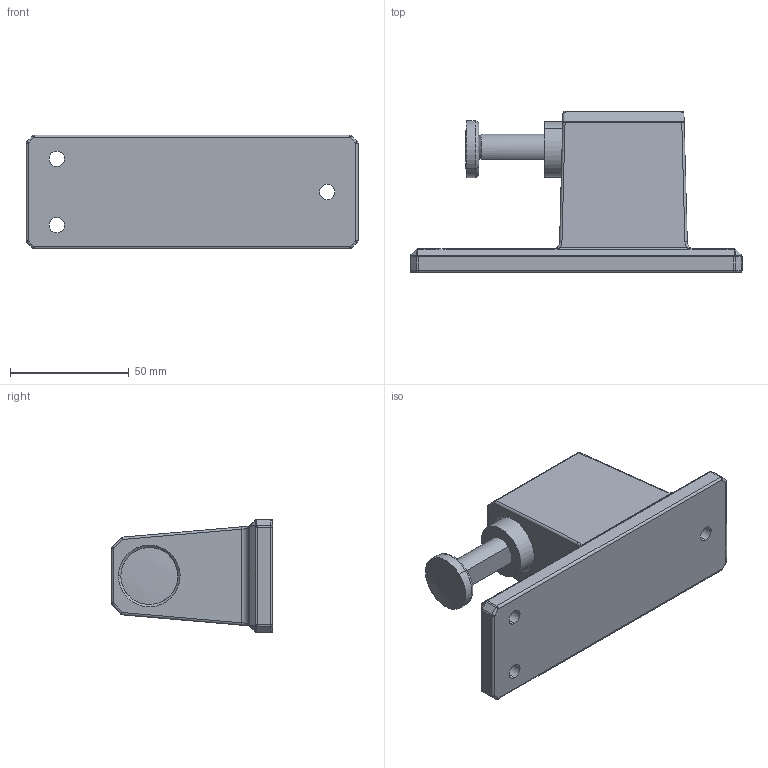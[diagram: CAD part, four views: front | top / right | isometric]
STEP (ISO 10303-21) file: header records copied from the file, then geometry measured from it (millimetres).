
FILE_DESCRIPTION (( 'STEP AP214' ), '1' );
FILE_NAME ('B52 KH-702.STEP', '2013-05-03T03:40:18', ( 'KJ27' ), ( 'KONGJIN' ), 'SwSTEP 2.0', 'SolidWorks 2011', '' );
FILE_SCHEMA (( 'AUTOMOTIVE_DESIGN' ));
Length unit declared in the file: millimetre
Products named in the file (6): だお7_1; SHAFT_1; HINGE_1; BASE_1; CAP_1; B52 KH-702
Assembly tree (5 placements, depth 2):
  B52 KH-702
    CAP_1
    HINGE_1
    SHAFT_1
    だお7_1
    BASE_1
Bounding box: 140 x 68 x 48 mm (x, y, z)
Volume: 178321.4 mm3; surface area: 36714.7 mm2
Topology: 4 solids, 4 shells, 193 faces, 422 edges, 222 vertices
Faces by surface type: cylinder 80, sphere 41, plane 34, bspline 22, cone 12, torus 4
Entity records: 92676 total; most frequent: CARTESIAN_POINT 64658, ORIENTED_EDGE 7114, DIRECTION 3769, EDGE_CURVE 3557, VERTEX_POINT 2023, B_SPLINE_CURVE_WITH_KNOTS 1846, EDGE_LOOP 1570, FACE_OUTER_BOUND 1548
